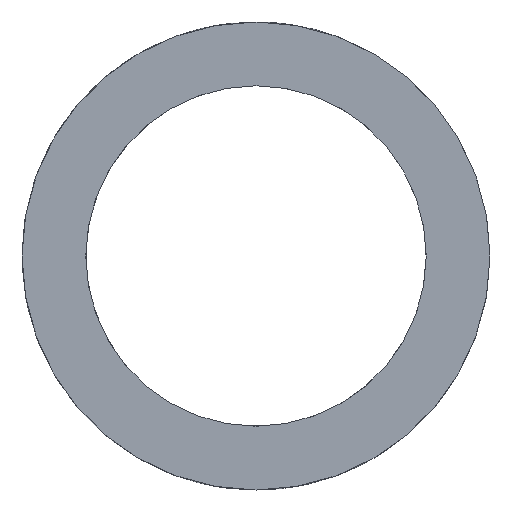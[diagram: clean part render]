
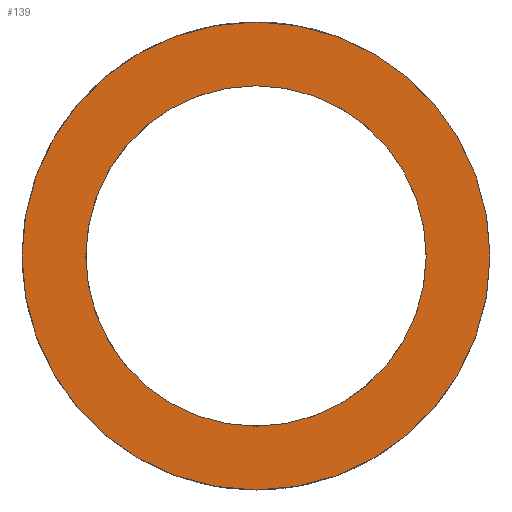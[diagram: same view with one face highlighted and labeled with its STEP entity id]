
A CAD part, left-side view. The second image highlights one B-rep face of the part: STEP entity #139.
In plain terms, the highlighted planar face has unit normal (-1, 0, 0).
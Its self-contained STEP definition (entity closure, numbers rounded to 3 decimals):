
#62=PLANE('',#131);
#68=ORIENTED_EDGE('',*,*,#80,.T.);
#69=ORIENTED_EDGE('',*,*,#82,.T.);
#74=CIRCLE('',#129,11.);
#75=CIRCLE('',#132,8.);
#76=VERTEX_POINT('',#117);
#78=VERTEX_POINT('',#122);
#80=EDGE_CURVE('',#76,#76,#74,.T.);
#82=EDGE_CURVE('',#78,#78,#75,.T.);
#86=EDGE_LOOP('',(#68));
#87=EDGE_LOOP('',(#69));
#94=FACE_BOUND('',#86,.T.);
#95=FACE_BOUND('',#87,.T.);
#102=DIRECTION('',(-1.,0.,0.));
#103=DIRECTION('',(0.,0.,11.));
#106=DIRECTION('',(-1.,0.,0.));
#107=DIRECTION('',(0.,1.,0.));
#108=DIRECTION('',(1.,0.,0.));
#109=DIRECTION('',(0.,0.,8.));
#117=CARTESIAN_POINT('',(0.,0.,11.));
#118=CARTESIAN_POINT('',(0.,0.,0.));
#121=CARTESIAN_POINT('',(0.,0.,11.));
#122=CARTESIAN_POINT('',(0.,0.,8.));
#123=CARTESIAN_POINT('',(0.,0.,0.));
#129=AXIS2_PLACEMENT_3D('',#118,#102,#103);
#131=AXIS2_PLACEMENT_3D('',#121,#106,#107);
#132=AXIS2_PLACEMENT_3D('',#123,#108,#109);
#139=ADVANCED_FACE('',(#94,#95),#62,.T.);
